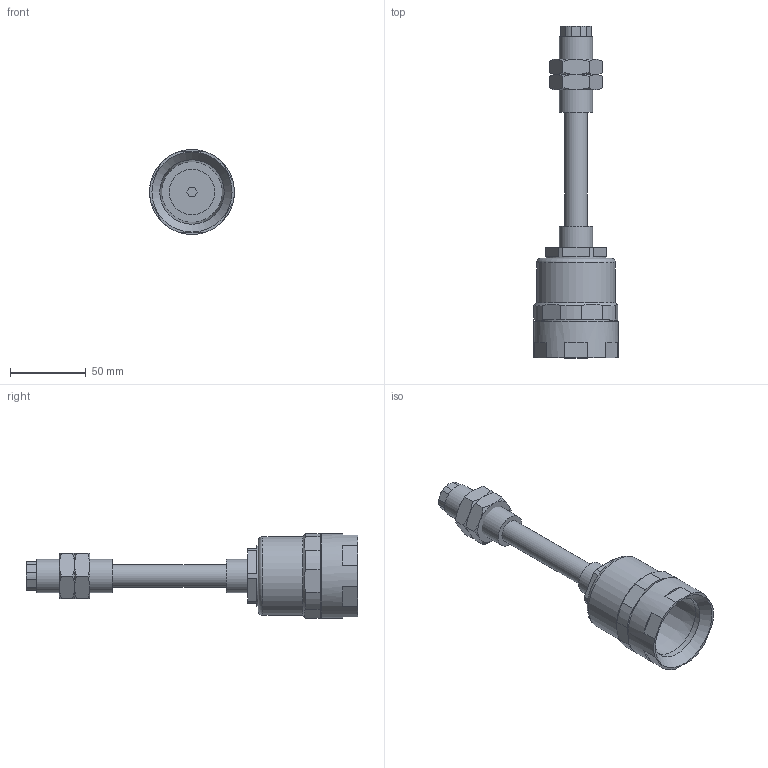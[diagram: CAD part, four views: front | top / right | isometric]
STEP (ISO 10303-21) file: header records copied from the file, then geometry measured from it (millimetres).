
FILE_DESCRIPTION(('STEP AP203'),'1');
FILE_NAME(').stp','2020-01-30T06:25:32',(' '),(' '),'Spatial InterOp 3D',' ',' ');
FILE_SCHEMA(('CONFIG_CONTROL_DESIGN'));
Length unit declared in the file: millimetre
Products named in the file (6): SGC-030-50-T; パーツ2; _____1; パーツ3; パーツ4
Assembly tree (5 placements, depth 3):
  SGC-030-50-T
    パーツ2
    _____1
      パーツ3
      パーツ4
      パーツ3
Bounding box: 55.96 x 219 x 56 mm (x, y, z)
Volume: 136973.8 mm3; surface area: 42639.5 mm2
Topology: 4 solids, 4 shells, 133 faces, 309 edges, 194 vertices
Faces by surface type: plane 72, cone 35, cylinder 25, torus 1
Full cylindrical faces by diameter (mm): 8.2 x1, 15 x2, 20.376 x2, 22 x2, 30 x1, 40 x1, 42.5 x1, 51 x1, 52 x1, 56 x1
Entity records: 4234 total; most frequent: CARTESIAN_POINT 1024, DIRECTION 608, ORIENTED_EDGE 574, EDGE_CURVE 287, AXIS2_PLACEMENT_3D 247, VERTEX_POINT 191, EDGE_LOOP 168, FACE_OUTER_BOUND 147
